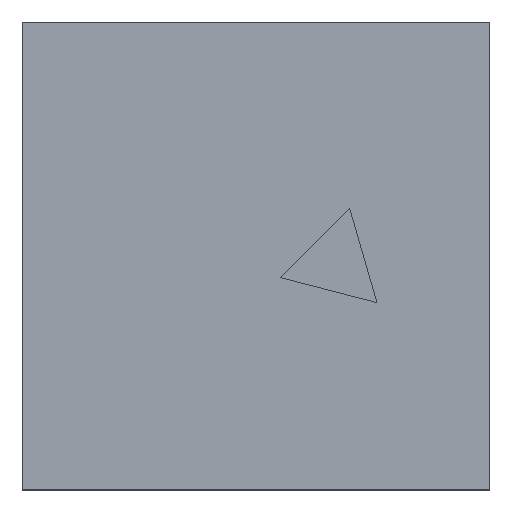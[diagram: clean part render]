
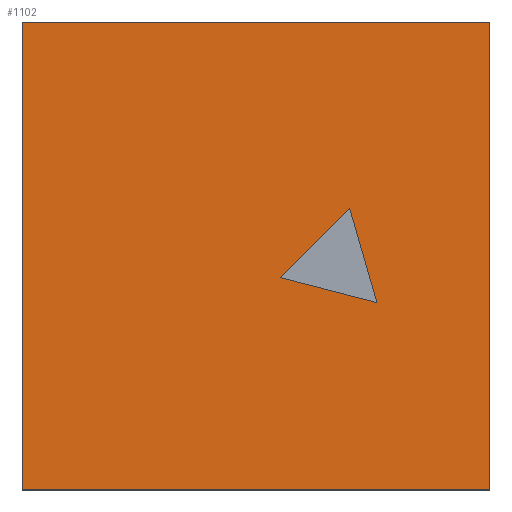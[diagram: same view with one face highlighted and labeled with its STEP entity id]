
A CAD part, top view. The second image highlights one B-rep face of the part: STEP entity #1102.
In plain terms, the highlighted planar face has unit normal (0, 0, 1).
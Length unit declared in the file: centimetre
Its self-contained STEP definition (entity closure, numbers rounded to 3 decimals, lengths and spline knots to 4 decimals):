
#34 = PLANE ( 'NONE',  #153 ) ;
#36 = CARTESIAN_POINT ( 'NONE',  ( 551.5783, 452.9124, 1000. ) ) ;
#52 = EDGE_LOOP ( 'NONE', ( #1241, #910, #339 ) ) ;
#56 = DIRECTION ( 'NONE',  ( -1., 0., 0. ) ) ;
#60 = ORIENTED_EDGE ( 'NONE', *, *, #920, .T. ) ;
#73 = VERTEX_POINT ( 'NONE', #296 ) ;
#86 = CARTESIAN_POINT ( 'NONE',  ( 0., 1000., 1000. ) ) ;
#93 = EDGE_CURVE ( 'NONE', #1142, #268, #1012, .T. ) ;
#106 = FACE_OUTER_BOUND ( 'NONE', #351, .T. ) ;
#121 = DIRECTION ( 'NONE',  ( 0., 1., 0. ) ) ;
#153 = AXIS2_PLACEMENT_3D ( 'NONE', #390, #407, #494 ) ;
#205 = DIRECTION ( 'NONE',  ( -0.707, -0.707, 0. ) ) ;
#268 = VERTEX_POINT ( 'NONE', #1119 ) ;
#279 = EDGE_CURVE ( 'NONE', #73, #564, #513, .T. ) ;
#290 = EDGE_CURVE ( 'NONE', #268, #474, #723, .T. ) ;
#296 = CARTESIAN_POINT ( 'NONE',  ( 758.8828, 399.4801, 1000. ) ) ;
#320 = DIRECTION ( 'NONE',  ( 0.968, -0.25, 0. ) ) ;
#339 = ORIENTED_EDGE ( 'NONE', *, *, #279, .F. ) ;
#343 = CARTESIAN_POINT ( 'NONE',  ( 758.8828, 399.4801, 1000. ) ) ;
#351 = EDGE_LOOP ( 'NONE', ( #1111, #60, #428, #375 ) ) ;
#373 = DIRECTION ( 'NONE',  ( 0., -1., 0. ) ) ;
#375 = ORIENTED_EDGE ( 'NONE', *, *, #290, .T. ) ;
#383 = VECTOR ( 'NONE', #121, 100. ) ;
#390 = CARTESIAN_POINT ( 'NONE',  ( 0., 0., 1000. ) ) ;
#407 = DIRECTION ( 'NONE',  ( 0., 0., 1. ) ) ;
#428 = ORIENTED_EDGE ( 'NONE', *, *, #93, .T. ) ;
#443 = VECTOR ( 'NONE', #1199, 100. ) ;
#474 = VERTEX_POINT ( 'NONE', #1037 ) ;
#494 = DIRECTION ( 'NONE',  ( 1., 0., 0. ) ) ;
#507 = CARTESIAN_POINT ( 'NONE',  ( 0., 0., 1000. ) ) ;
#508 = EDGE_CURVE ( 'NONE', #474, #752, #533, .T. ) ;
#513 = LINE ( 'NONE', #343, #443 ) ;
#533 = LINE ( 'NONE', #86, #1246 ) ;
#564 = VERTEX_POINT ( 'NONE', #845 ) ;
#569 = VECTOR ( 'NONE', #205, 100. ) ;
#623 = CARTESIAN_POINT ( 'NONE',  ( 0., 1000., 1000. ) ) ;
#697 = CARTESIAN_POINT ( 'NONE',  ( 700.4469, 601.7811, 1000. ) ) ;
#713 = VECTOR ( 'NONE', #320, 100. ) ;
#723 = LINE ( 'NONE', #623, #732 ) ;
#732 = VECTOR ( 'NONE', #56, 100. ) ;
#738 = EDGE_CURVE ( 'NONE', #1039, #73, #1089, .T. ) ;
#752 = VERTEX_POINT ( 'NONE', #507 ) ;
#790 = LINE ( 'NONE', #697, #569 ) ;
#845 = CARTESIAN_POINT ( 'NONE',  ( 700.4469, 601.7811, 1000. ) ) ;
#906 = CARTESIAN_POINT ( 'NONE',  ( 1000., 1000., 1000. ) ) ;
#910 = ORIENTED_EDGE ( 'NONE', *, *, #1250, .F. ) ;
#920 = EDGE_CURVE ( 'NONE', #752, #1142, #1159, .T. ) ;
#980 = CARTESIAN_POINT ( 'NONE',  ( 1000., 0., 1000. ) ) ;
#1012 = LINE ( 'NONE', #906, #383 ) ;
#1037 = CARTESIAN_POINT ( 'NONE',  ( 0., 1000., 1000. ) ) ;
#1039 = VERTEX_POINT ( 'NONE', #1088 ) ;
#1062 = DIRECTION ( 'NONE',  ( 1., 0., 0. ) ) ;
#1088 = CARTESIAN_POINT ( 'NONE',  ( 551.5783, 452.9124, 1000. ) ) ;
#1089 = LINE ( 'NONE', #36, #713 ) ;
#1094 = FACE_BOUND ( 'NONE', #52, .T. ) ;
#1102 = ADVANCED_FACE ( 'NONE', ( #1094, #106 ), #34, .T. ) ;
#1111 = ORIENTED_EDGE ( 'NONE', *, *, #508, .T. ) ;
#1119 = CARTESIAN_POINT ( 'NONE',  ( 1000., 1000., 1000. ) ) ;
#1142 = VERTEX_POINT ( 'NONE', #980 ) ;
#1159 = LINE ( 'NONE', #1251, #1208 ) ;
#1199 = DIRECTION ( 'NONE',  ( -0.278, 0.961, 0. ) ) ;
#1208 = VECTOR ( 'NONE', #1062, 100. ) ;
#1241 = ORIENTED_EDGE ( 'NONE', *, *, #738, .F. ) ;
#1246 = VECTOR ( 'NONE', #373, 100. ) ;
#1250 = EDGE_CURVE ( 'NONE', #564, #1039, #790, .T. ) ;
#1251 = CARTESIAN_POINT ( 'NONE',  ( 0., 0., 1000. ) ) ;
